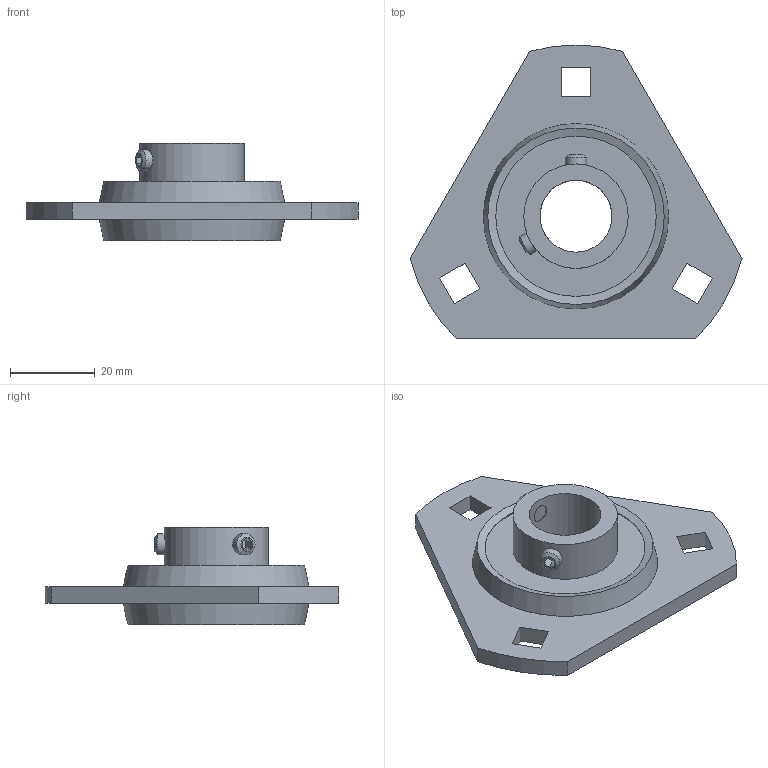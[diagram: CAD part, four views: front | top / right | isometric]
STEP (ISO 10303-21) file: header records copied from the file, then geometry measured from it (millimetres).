
FILE_DESCRIPTION((''),'2;1');
FILE_NAME('\\Ts-tgl068\j-cad-d-base\00.3DCADデータ作成フォルダ\02.フランジ形\BPFT\BPFT3.stp','2014-05-08T08:31:08',('btec_1106_2'),(''),'Autodesk Inventor 2012','Autodesk Inventor 2012','');
FILE_SCHEMA(('AUTOMOTIVE_DESIGN { 1 0 10303 214 1 1 1 1 }'));
Length unit declared in the file: millimetre
Products named in the file (3): BPFT; PFT3; シリーズB [番手=3 ul]
Assembly tree (2 placements, depth 2):
  BPFT
    PFT3
    シリーズB [番手=3 ul]
Bounding box: 78.5 x 69.5 x 23 mm (x, y, z)
Volume: 26597.2 mm3; surface area: 14475.8 mm2
Topology: 2 solids, 2 shells, 57 faces, 139 edges, 91 vertices
Faces by surface type: plane 38, cylinder 11, sphere 4, cone 4
Full cylindrical faces by diameter (mm): 5 x2, 17 x1, 24.7 x1
Entity records: 1748 total; most frequent: CARTESIAN_POINT 400, DIRECTION 260, ORIENTED_EDGE 236, EDGE_CURVE 118, AXIS2_PLACEMENT_3D 88, EDGE_LOOP 86, VERTEX_POINT 84, VECTOR 84
